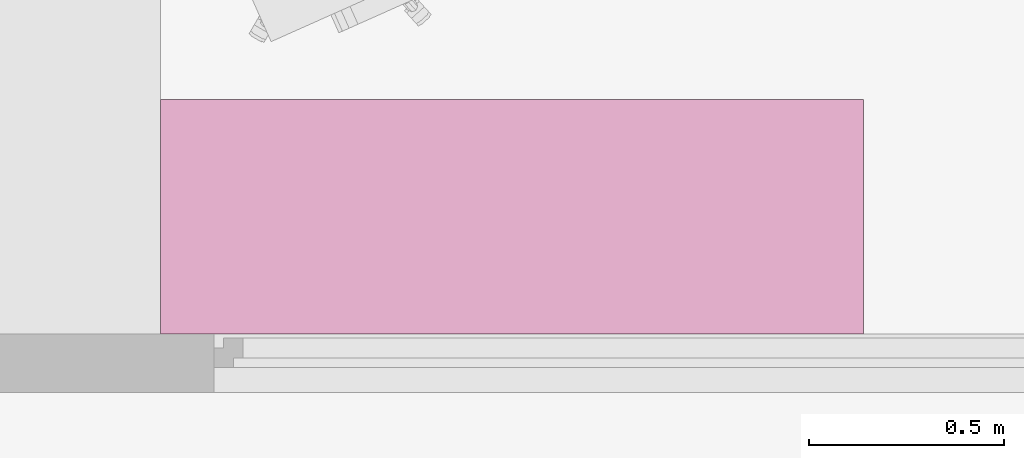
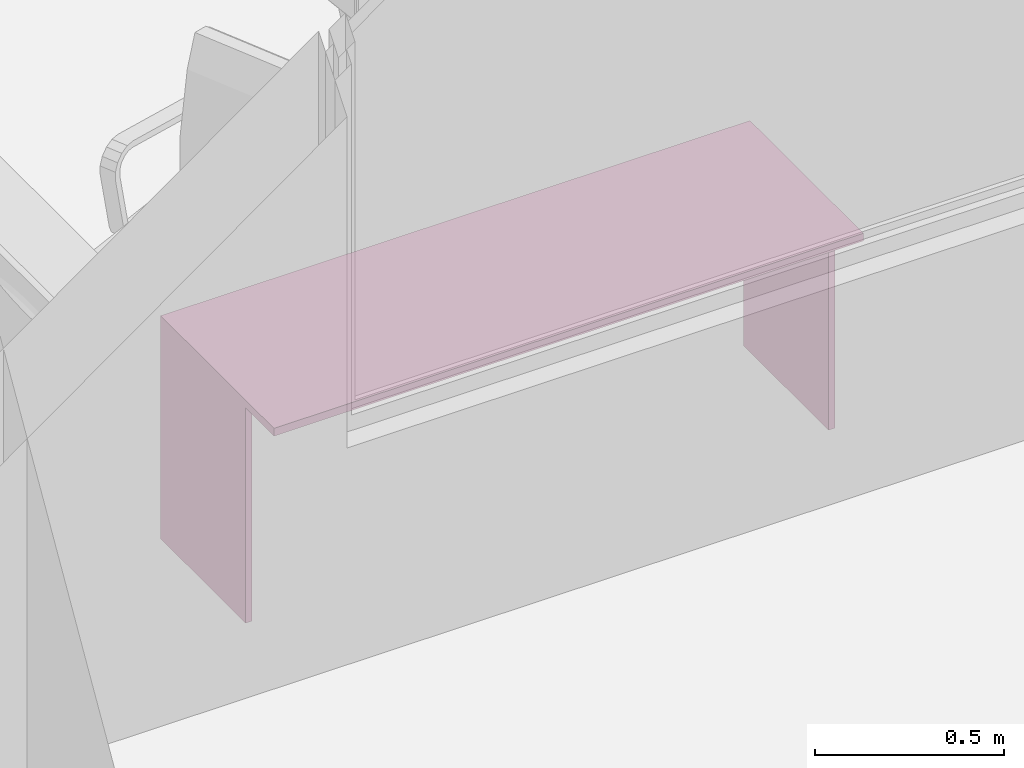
# One storey, part 33 of 36: 1 furnishing.
"""IFC2X3 building model written with IfcOpenShell, lengths in millimetres."""

from ifc_helpers import new_model, entity, si_unit, converted_unit, money_unit, direction, frame, origin_with_axes, place, context, subcontext, project, spatial, faceted_brep, source, transform, mapped, material, material_list, type_object, element, save


model = new_model("IFC2X3")

# Units and contexts
model_context = context("Model", 3, precision=1e-05, world=origin_with_axes(), true_north=direction((0.0, 1.0)))
body_context = subcontext(model_context, "Body", "Model", "MODEL_VIEW")
ifc_project = project(units=[si_unit("LENGTHUNIT", "METRE", prefix="MILLI"), si_unit("AREAUNIT", "SQUARE_METRE"), si_unit("VOLUMEUNIT", "CUBIC_METRE"), converted_unit("PLANEANGLEUNIT", "DEGREE", entity("IfcPlaneAngleMeasure", 0.0174532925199), si_unit("PLANEANGLEUNIT", "RADIAN"), dimensions=[0, 0, 0, 0, 0, 0, 0]), si_unit("SOLIDANGLEUNIT", "STERADIAN"), money_unit("USD"), converted_unit("TIMEUNIT", "Year", entity("IfcTimeMeasure", 31556926.0), si_unit("TIMEUNIT", "SECOND"), dimensions=[0, 0, 0, 0, 0, 0, 0]), si_unit("MASSUNIT", "GRAM"), si_unit("THERMODYNAMICTEMPERATUREUNIT", "DEGREE_CELSIUS"), si_unit("LUMINOUSINTENSITYUNIT", "LUMEN")], contexts=[model_context])

# Site, building, storey
site_placement = place(None, origin_with_axes())
site = spatial("IfcSite", under=ifc_project, at=site_placement, Name="Site", CompositionType="ELEMENT")
building_placement = place(site_placement, origin_with_axes())
building = spatial("IfcBuilding", under=site, at=building_placement, Name="Building", CompositionType="ELEMENT")
storey_placement = place(building_placement, frame((0.0, 0.0, -3400.0), z_axis=(0.0, 0.0, 1.0), x_axis=(1.0, 0.0, 0.0)))
storey = spatial("IfcBuildingStorey", under=building, at=storey_placement, Name="1KORRUS", CompositionType="ELEMENT", Elevation=-3400.0)

# Furnishing
ifc_material = material(Name="Background")
ifc_material_list = material_list([ifc_material])
furnishing_element_type = type_object("IfcFurnishingElementType", Name="Desk 19")
shared_shape = source(origin_with_axes(), body_context, "Body", "Brep", [
    faceted_brep([(-20.0, 150.0, 0.0), (-20.0, 600.0, 0.0), (0.0, 600.0, 0.0), (0.0, 150.0, 0.0), (-20.0, 150.0, 695.0), (-20.0, 600.0, 695.0), (0.0, 600.0, 695.0), (0.0, 150.0, 695.0)], [[[0, 1, 2, 3]], [[0, 4, 5, 1]], [[1, 5, 6, 2]], [[2, 6, 7, 3]], [[3, 7, 4, 0]], [[7, 6, 5, 4]]]),
    faceted_brep([(-1800.0, 150.0, 0.0), (-1800.0, 600.0, 0.0), (-1780.0, 600.0, 0.0), (-1780.0, 150.0, 0.0), (-1800.0, 150.0, 695.0), (-1800.0, 600.0, 695.0), (-1780.0, 600.0, 695.0), (-1780.0, 150.0, 695.0)], [[[0, 1, 2, 3]], [[0, 4, 5, 1]], [[1, 5, 6, 2]], [[2, 6, 7, 3]], [[3, 7, 4, 0]], [[7, 6, 5, 4]]]),
    faceted_brep([(-1800.0, 0.0, 695.0), (-1800.0, 600.0, 695.0), (0.0, 600.0, 695.0), (0.0, 0.0, 695.0), (-1800.0, 0.0, 720.0), (-1800.0, 600.0, 720.0), (0.0, 600.0, 720.0), (0.0, 0.0, 720.0)], [[[0, 1, 2, 3]], [[0, 4, 5, 1]], [[1, 5, 6, 2]], [[2, 6, 7, 3]], [[3, 7, 4, 0]], [[7, 6, 5, 4]]]),
    faceted_brep([(-1780.0, 580.0, 360.0), (-1780.0, 600.0, 360.0), (-20.0, 600.0, 360.0), (-20.0, 580.0, 360.0), (-1780.0, 580.0, 695.0), (-1780.0, 600.0, 695.0), (-20.0, 600.0, 695.0), (-20.0, 580.0, 695.0)], [[[0, 1, 2, 3]], [[0, 4, 5, 1]], [[1, 5, 6, 2]], [[2, 6, 7, 3]], [[3, 7, 4, 0]], [[7, 6, 5, 4]]]),
])
furnishing_placement = place(storey_placement, frame((-55187.0141553, -10847.6526712, 0.0), z_axis=(0.0, 0.0, 1.0), x_axis=(1.0, 0.0, 0.0)))
element("IfcFurnishingElement", 1, at=furnishing_placement, inside=storey, type_object=furnishing_element_type, material=ifc_material_list, Name="DL1", ObjectType="Table", context=body_context, shape_type="MappedRepresentation", body=[
    mapped(shared_shape, transform((0.0, 0.0, 0.0))),
])

save(model, "model.ifc")
